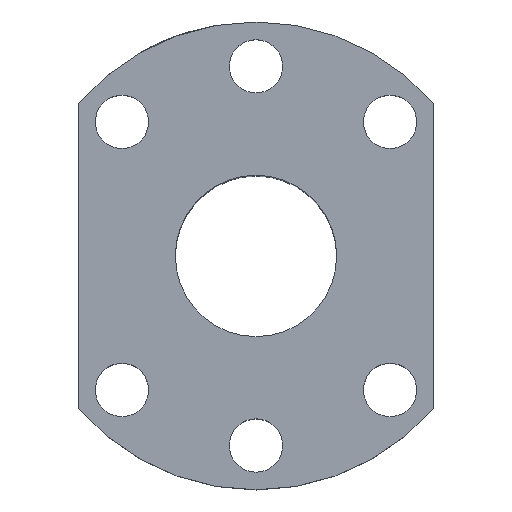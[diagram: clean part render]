
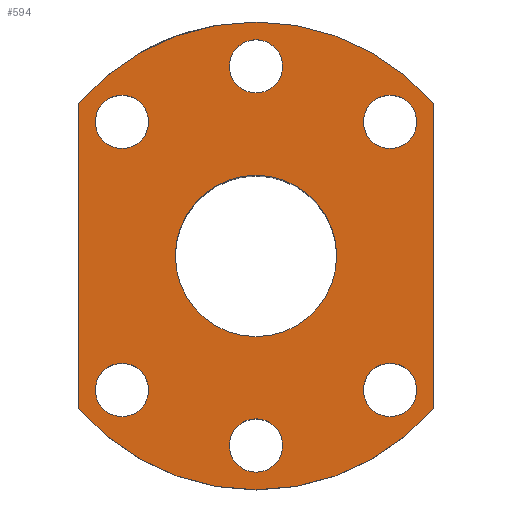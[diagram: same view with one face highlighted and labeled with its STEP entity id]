
A CAD part, top view. The second image highlights one B-rep face of the part: STEP entity #594.
In plain terms, the highlighted planar face has unit normal (0, 0, 1).
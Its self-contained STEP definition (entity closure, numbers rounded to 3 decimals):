
#67=CARTESIAN_POINT('',(0.,0.,37.));
#68=DIRECTION('',(0.,0.,-1.));
#69=DIRECTION('',(1.,0.,0.));
#70=AXIS2_PLACEMENT_3D('',#67,#68,#69);
#72=CARTESIAN_POINT('',(0.,0.,37.));
#73=DIRECTION('',(0.,0.,-1.));
#74=DIRECTION('',(-1.,0.,0.));
#75=AXIS2_PLACEMENT_3D('',#72,#73,#74);
#77=CARTESIAN_POINT('',(16.617,16.617,37.));
#78=DIRECTION('',(0.,0.,-1.));
#79=DIRECTION('',(1.,0.,0.));
#80=AXIS2_PLACEMENT_3D('',#77,#78,#79);
#82=CARTESIAN_POINT('',(16.617,16.617,37.));
#83=DIRECTION('',(0.,0.,-1.));
#84=DIRECTION('',(-1.,0.,0.));
#85=AXIS2_PLACEMENT_3D('',#82,#83,#84);
#87=CARTESIAN_POINT('',(0.,23.5,37.));
#88=DIRECTION('',(0.,0.,-1.));
#89=DIRECTION('',(1.,0.,0.));
#90=AXIS2_PLACEMENT_3D('',#87,#88,#89);
#92=CARTESIAN_POINT('',(0.,23.5,37.));
#93=DIRECTION('',(0.,0.,-1.));
#94=DIRECTION('',(-1.,0.,0.));
#95=AXIS2_PLACEMENT_3D('',#92,#93,#94);
#97=CARTESIAN_POINT('',(-16.617,16.617,37.));
#98=DIRECTION('',(0.,0.,-1.));
#99=DIRECTION('',(1.,0.,0.));
#100=AXIS2_PLACEMENT_3D('',#97,#98,#99);
#102=CARTESIAN_POINT('',(-16.617,16.617,37.));
#103=DIRECTION('',(0.,0.,-1.));
#104=DIRECTION('',(-1.,0.,0.));
#105=AXIS2_PLACEMENT_3D('',#102,#103,#104);
#107=CARTESIAN_POINT('',(-16.617,-16.617,37.));
#108=DIRECTION('',(0.,0.,-1.));
#109=DIRECTION('',(1.,0.,0.));
#110=AXIS2_PLACEMENT_3D('',#107,#108,#109);
#112=CARTESIAN_POINT('',(-16.617,-16.617,37.));
#113=DIRECTION('',(0.,0.,-1.));
#114=DIRECTION('',(-1.,0.,0.));
#115=AXIS2_PLACEMENT_3D('',#112,#113,#114);
#117=CARTESIAN_POINT('',(0.,-23.5,37.));
#118=DIRECTION('',(0.,0.,-1.));
#119=DIRECTION('',(1.,0.,0.));
#120=AXIS2_PLACEMENT_3D('',#117,#118,#119);
#122=CARTESIAN_POINT('',(0.,-23.5,37.));
#123=DIRECTION('',(0.,0.,-1.));
#124=DIRECTION('',(-1.,0.,0.));
#125=AXIS2_PLACEMENT_3D('',#122,#123,#124);
#127=CARTESIAN_POINT('',(16.617,-16.617,37.));
#128=DIRECTION('',(0.,0.,-1.));
#129=DIRECTION('',(1.,0.,0.));
#130=AXIS2_PLACEMENT_3D('',#127,#128,#129);
#132=CARTESIAN_POINT('',(16.617,-16.617,37.));
#133=DIRECTION('',(0.,0.,-1.));
#134=DIRECTION('',(-1.,0.,0.));
#135=AXIS2_PLACEMENT_3D('',#132,#133,#134);
#137=CARTESIAN_POINT('',(0.,0.,37.));
#138=DIRECTION('',(0.,0.,1.));
#139=DIRECTION('',(0.759,0.652,0.));
#140=AXIS2_PLACEMENT_3D('',#137,#138,#139);
#142=DIRECTION('',(0.,1.,0.));
#143=VECTOR('',#142,37.789);
#144=CARTESIAN_POINT('',(22.,-18.894,37.));
#145=LINE('',#144,#143);
#146=CARTESIAN_POINT('',(0.,0.,37.));
#147=DIRECTION('',(0.,0.,1.));
#148=DIRECTION('',(-0.759,-0.652,0.));
#149=AXIS2_PLACEMENT_3D('',#146,#147,#148);
#151=DIRECTION('',(0.,-1.,0.));
#152=VECTOR('',#151,37.789);
#153=CARTESIAN_POINT('',(-22.,18.894,37.));
#154=LINE('',#153,#152);
#431=CARTESIAN_POINT('',(10.,0.,37.));
#432=CARTESIAN_POINT('',(-10.,0.,37.));
#433=VERTEX_POINT('',#431);
#434=VERTEX_POINT('',#432);
#435=CARTESIAN_POINT('',(19.917,16.617,37.));
#436=CARTESIAN_POINT('',(13.317,16.617,37.));
#437=VERTEX_POINT('',#435);
#438=VERTEX_POINT('',#436);
#439=CARTESIAN_POINT('',(3.3,23.5,37.));
#440=CARTESIAN_POINT('',(-3.3,23.5,37.));
#441=VERTEX_POINT('',#439);
#442=VERTEX_POINT('',#440);
#443=CARTESIAN_POINT('',(-13.317,16.617,37.));
#444=CARTESIAN_POINT('',(-19.917,16.617,37.));
#445=VERTEX_POINT('',#443);
#446=VERTEX_POINT('',#444);
#447=CARTESIAN_POINT('',(-13.317,-16.617,37.));
#448=CARTESIAN_POINT('',(-19.917,-16.617,37.));
#449=VERTEX_POINT('',#447);
#450=VERTEX_POINT('',#448);
#451=CARTESIAN_POINT('',(3.3,-23.5,37.));
#452=CARTESIAN_POINT('',(-3.3,-23.5,37.));
#453=VERTEX_POINT('',#451);
#454=VERTEX_POINT('',#452);
#455=CARTESIAN_POINT('',(19.917,-16.617,37.));
#456=CARTESIAN_POINT('',(13.317,-16.617,37.));
#457=VERTEX_POINT('',#455);
#458=VERTEX_POINT('',#456);
#459=CARTESIAN_POINT('',(22.,18.894,37.));
#460=CARTESIAN_POINT('',(-22.,18.894,37.));
#461=VERTEX_POINT('',#459);
#462=VERTEX_POINT('',#460);
#463=CARTESIAN_POINT('',(-22.,-18.894,37.));
#464=VERTEX_POINT('',#463);
#465=CARTESIAN_POINT('',(22.,-18.894,37.));
#466=VERTEX_POINT('',#465);
#539=CARTESIAN_POINT('',(0.,0.,37.));
#540=DIRECTION('',(0.,0.,1.));
#541=DIRECTION('',(1.,0.,0.));
#542=AXIS2_PLACEMENT_3D('',#539,#540,#541);
#543=PLANE('',#542);
#545=ORIENTED_EDGE('',*,*,#544,.F.);
#547=ORIENTED_EDGE('',*,*,#546,.F.);
#549=ORIENTED_EDGE('',*,*,#548,.F.);
#551=ORIENTED_EDGE('',*,*,#550,.F.);
#552=EDGE_LOOP('',(#545,#547,#549,#551));
#553=FACE_OUTER_BOUND('',#552,.F.);
#555=ORIENTED_EDGE('',*,*,#554,.F.);
#557=ORIENTED_EDGE('',*,*,#556,.F.);
#558=EDGE_LOOP('',(#555,#557));
#559=FACE_BOUND('',#558,.F.);
#561=ORIENTED_EDGE('',*,*,#560,.F.);
#563=ORIENTED_EDGE('',*,*,#562,.F.);
#564=EDGE_LOOP('',(#561,#563));
#565=FACE_BOUND('',#564,.F.);
#567=ORIENTED_EDGE('',*,*,#566,.F.);
#569=ORIENTED_EDGE('',*,*,#568,.F.);
#570=EDGE_LOOP('',(#567,#569));
#571=FACE_BOUND('',#570,.F.);
#573=ORIENTED_EDGE('',*,*,#572,.F.);
#575=ORIENTED_EDGE('',*,*,#574,.F.);
#576=EDGE_LOOP('',(#573,#575));
#577=FACE_BOUND('',#576,.F.);
#579=ORIENTED_EDGE('',*,*,#578,.F.);
#581=ORIENTED_EDGE('',*,*,#580,.F.);
#582=EDGE_LOOP('',(#579,#581));
#583=FACE_BOUND('',#582,.F.);
#585=ORIENTED_EDGE('',*,*,#584,.F.);
#587=ORIENTED_EDGE('',*,*,#586,.F.);
#588=EDGE_LOOP('',(#585,#587));
#589=FACE_BOUND('',#588,.F.);
#590=ORIENTED_EDGE('',*,*,#512,.F.);
#591=ORIENTED_EDGE('',*,*,#526,.F.);
#592=EDGE_LOOP('',(#590,#591));
#593=FACE_BOUND('',#592,.F.);
#71=CIRCLE('',#70,10.);
#76=CIRCLE('',#75,10.);
#81=CIRCLE('',#80,3.3);
#86=CIRCLE('',#85,3.3);
#91=CIRCLE('',#90,3.3);
#96=CIRCLE('',#95,3.3);
#101=CIRCLE('',#100,3.3);
#106=CIRCLE('',#105,3.3);
#111=CIRCLE('',#110,3.3);
#116=CIRCLE('',#115,3.3);
#121=CIRCLE('',#120,3.3);
#126=CIRCLE('',#125,3.3);
#131=CIRCLE('',#130,3.3);
#136=CIRCLE('',#135,3.3);
#141=CIRCLE('',#140,29.);
#150=CIRCLE('',#149,29.);
#512=EDGE_CURVE('',#433,#434,#71,.T.);
#526=EDGE_CURVE('',#434,#433,#76,.T.);
#544=EDGE_CURVE('',#461,#462,#141,.T.);
#546=EDGE_CURVE('',#466,#461,#145,.T.);
#548=EDGE_CURVE('',#464,#466,#150,.T.);
#550=EDGE_CURVE('',#462,#464,#154,.T.);
#554=EDGE_CURVE('',#437,#438,#81,.T.);
#556=EDGE_CURVE('',#438,#437,#86,.T.);
#560=EDGE_CURVE('',#441,#442,#91,.T.);
#562=EDGE_CURVE('',#442,#441,#96,.T.);
#566=EDGE_CURVE('',#445,#446,#101,.T.);
#568=EDGE_CURVE('',#446,#445,#106,.T.);
#572=EDGE_CURVE('',#449,#450,#111,.T.);
#574=EDGE_CURVE('',#450,#449,#116,.T.);
#578=EDGE_CURVE('',#453,#454,#121,.T.);
#580=EDGE_CURVE('',#454,#453,#126,.T.);
#584=EDGE_CURVE('',#457,#458,#131,.T.);
#586=EDGE_CURVE('',#458,#457,#136,.T.);
#594=ADVANCED_FACE('',(#553,#559,#565,#571,#577,#583,#589,#593),#543,.T.);
